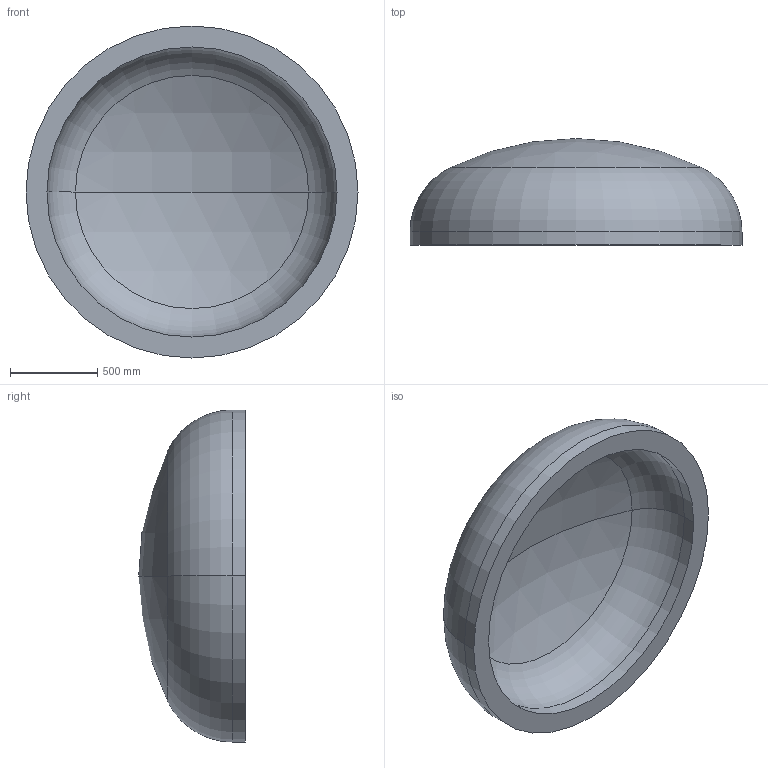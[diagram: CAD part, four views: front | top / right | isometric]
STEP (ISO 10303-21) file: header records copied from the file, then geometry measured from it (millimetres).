
FILE_DESCRIPTION (( 'STEP AP203' ), '1' );
FILE_NAME ('DIN 28013 Korbbogenform_-_Boden DIN 28013 - 1900 x 75 - I - s=120.step', '2016-07-01T13:31:23', ( '' ), ( '' ), 'SwSTEP 2.0', 'SolidWorks 2013', '' );
FILE_SCHEMA (( 'CONFIG_CONTROL_DESIGN' ));
Length unit declared in the file: millimetre
Products named in the file (1): DIN 28013 Korbbogenform_-_Boden DIN 28013 - 1900 x 75 - I - s=120
Bounding box: 1900 x 609.88 x 1900 mm (x, y, z)
Volume: 484386318.5 mm3; surface area: 8774306.7 mm2
Topology: 1 solids, 1 shells, 13 faces, 24 edges, 14 vertices
Faces by surface type: torus 4, cylinder 4, sphere 4, plane 1
Entity records: 407 total; most frequent: DIRECTION 72, CARTESIAN_POINT 52, ORIENTED_EDGE 48, AXIS2_PLACEMENT_3D 34, EDGE_CURVE 24, CIRCLE 20, VERTEX_POINT 14, EDGE_LOOP 14
